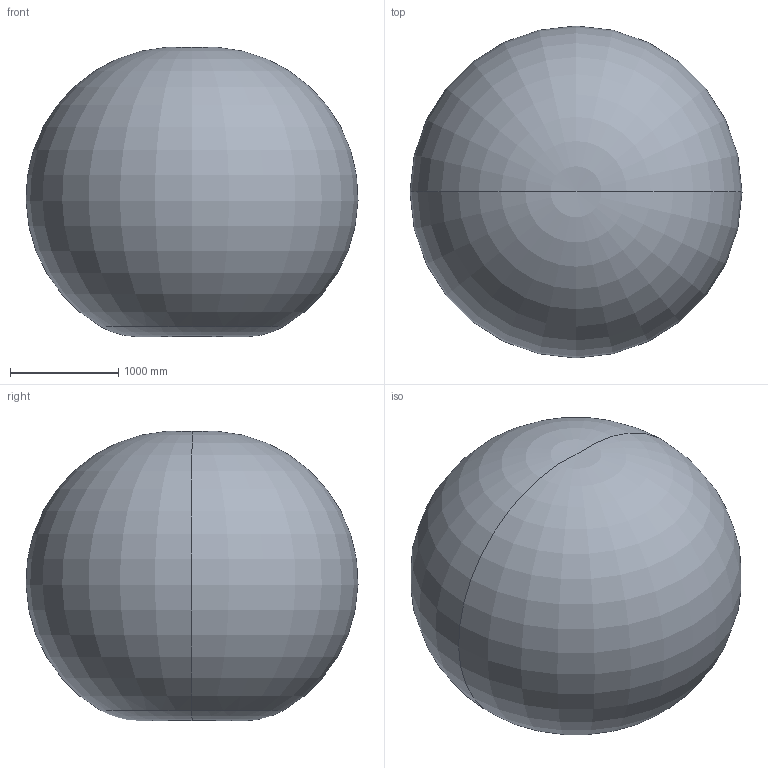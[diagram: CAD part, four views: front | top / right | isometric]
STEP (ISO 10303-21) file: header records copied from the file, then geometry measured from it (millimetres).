
FILE_DESCRIPTION (( 'STEP AP214' ), '1' );
FILE_NAME ('IRB1660ID_X-155_working space.STEP', '2025-11-21T08:39:35', ( '' ), ( '' ), 'SwSTEP 2.0', 'SolidWorks 2024', '' );
FILE_SCHEMA (( 'AUTOMOTIVE_DESIGN' ));
Length unit declared in the file: millimetre
Products named in the file (1): IRB1660ID_X-155_working space
Bounding box: 3072.88 x 3072.88 x 2677.12 mm (x, y, z)
Volume: 14096970109.1 mm3; surface area: 28677884.5 mm2
Topology: 1 solids, 2 shells, 10 faces, 24 edges, 10 vertices
Faces by surface type: torus 10
Entity records: 261 total; most frequent: DIRECTION 54, CARTESIAN_POINT 37, ORIENTED_EDGE 32, AXIS2_PLACEMENT_3D 27, EDGE_CURVE 16, CIRCLE 16, EDGE_LOOP 10, ADVANCED_FACE 10
